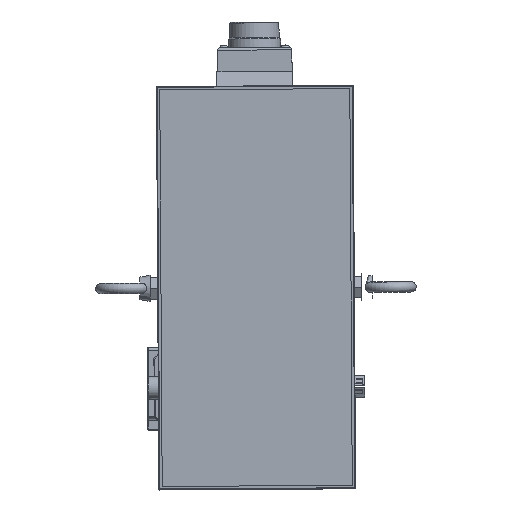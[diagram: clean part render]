
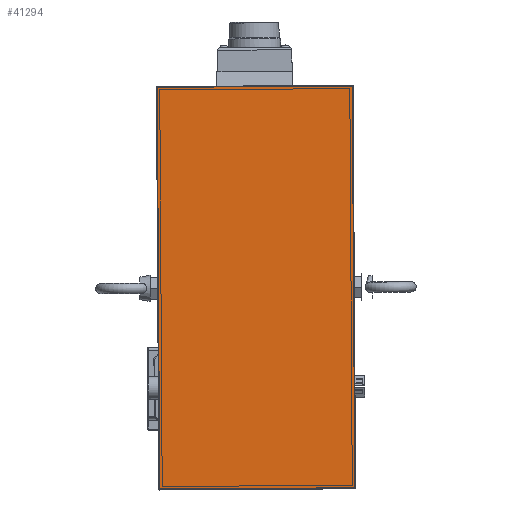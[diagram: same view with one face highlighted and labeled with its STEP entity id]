
A CAD part, top view. The second image highlights one B-rep face of the part: STEP entity #41294.
In plain terms, the highlighted planar face has unit normal (0, 0, 1).
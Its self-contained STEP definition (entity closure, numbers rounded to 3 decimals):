
#1725=PLANE('',#44978);
#6024=FACE_OUTER_BOUND('',#8515,.T.);
#8515=EDGE_LOOP('',(#34881,#34882,#34883,#34884));
#13621=LINE('',#77708,#16585);
#13622=LINE('',#77710,#16586);
#13623=LINE('',#77712,#16587);
#13624=LINE('',#77713,#16588);
#16585=VECTOR('',#54212,10.);
#16586=VECTOR('',#54213,10.);
#16587=VECTOR('',#54214,10.);
#16588=VECTOR('',#54215,10.);
#20271=VERTEX_POINT('',#77706);
#20272=VERTEX_POINT('',#77707);
#20273=VERTEX_POINT('',#77709);
#20274=VERTEX_POINT('',#77711);
#25409=EDGE_CURVE('',#20271,#20272,#13621,.T.);
#25410=EDGE_CURVE('',#20273,#20271,#13622,.T.);
#25411=EDGE_CURVE('',#20274,#20273,#13623,.T.);
#25412=EDGE_CURVE('',#20272,#20274,#13624,.T.);
#34881=ORIENTED_EDGE('',*,*,#25409,.F.);
#34882=ORIENTED_EDGE('',*,*,#25410,.F.);
#34883=ORIENTED_EDGE('',*,*,#25411,.F.);
#34884=ORIENTED_EDGE('',*,*,#25412,.F.);
#41294=ADVANCED_FACE('',(#6024),#1725,.T.);
#44978=AXIS2_PLACEMENT_3D('',#77705,#54210,#54211);
#54210=DIRECTION('center_axis',(0.,0.,
1.));
#54211=DIRECTION('ref_axis',(0.006,-1.,0.));
#54212=DIRECTION('',(-0.006,1.,0.));
#54213=DIRECTION('',(-1.,-0.006,0.));
#54214=DIRECTION('',(0.006,-1.,0.));
#54215=DIRECTION('',(1.,0.006,0.));
#77705=CARTESIAN_POINT('Origin',(57.867,-59.646,823.));
#77706=CARTESIAN_POINT('',(-58.622,-61.861,823.));
#77707=CARTESIAN_POINT('',(-60.112,181.135,823.));
#77708=CARTESIAN_POINT('',(-58.631,-60.361,823.));
#77709=CARTESIAN_POINT('',(59.376,-61.137,823.));
#77710=CARTESIAN_POINT('',(29.127,-61.322,823.));
#77711=CARTESIAN_POINT('',(57.886,181.858,823.));
#77712=CARTESIAN_POINT('',(59.367,-59.637,823.));
#77713=CARTESIAN_POINT('',(27.636,181.673,823.));
